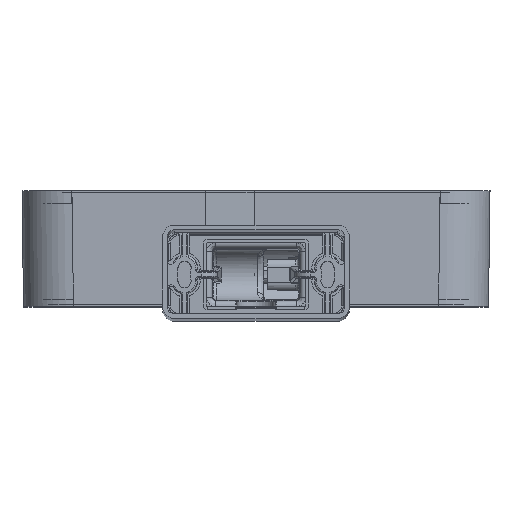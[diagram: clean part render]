
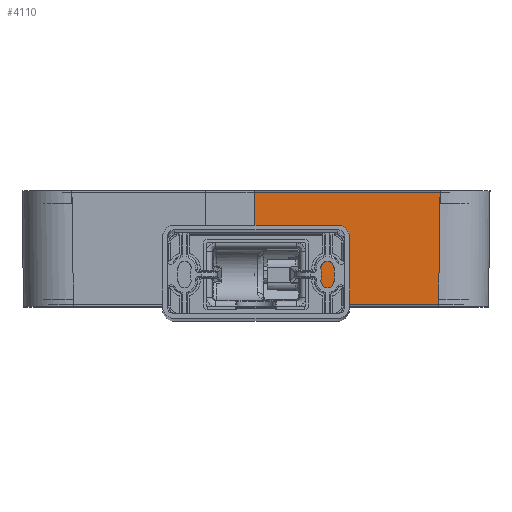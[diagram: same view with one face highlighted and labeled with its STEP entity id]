
A CAD part, top view. The second image highlights one B-rep face of the part: STEP entity #4110.
In plain terms, the highlighted planar face has unit normal (0, -0.013, 1).
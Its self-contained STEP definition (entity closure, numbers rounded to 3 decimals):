
#59=DIRECTION('',(1.,0.,0.));
#60=VECTOR('',#59,59.017);
#61=CARTESIAN_POINT('',(-0.5,0.,104.516));
#62=LINE('',#61,#60);
#77=CARTESIAN_POINT('',(58.517,0.,104.516));
#259=DIRECTION('',(1.,0.,0.));
#260=VECTOR('',#259,59.501);
#261=CARTESIAN_POINT('',(-0.5,37.,105.));
#262=LINE('',#261,#260);
#505=DIRECTION('',(-0.013,-1.,-0.013));
#506=VECTOR('',#505,37.006);
#507=CARTESIAN_POINT('',(59.001,37.,105.));
#508=LINE('',#507,#506);
#1727=DIRECTION('',(0.,-1.,-0.013));
#1728=VECTOR('',#1727,37.003);
#1729=CARTESIAN_POINT('',(-0.5,37.,105.));
#1730=LINE('',#1729,#1728);
#3287=CARTESIAN_POINT('',(-0.5,0.,104.516));
#3288=VERTEX_POINT('',#3287);
#3300=VERTEX_POINT('',#77);
#3301=CARTESIAN_POINT('',(59.001,37.,105.));
#3302=VERTEX_POINT('',#3301);
#3452=CARTESIAN_POINT('',(-0.5,37.,105.));
#3453=VERTEX_POINT('',#3452);
#4097=CARTESIAN_POINT('',(-76.12,37.,105.));
#4098=DIRECTION('',(0.,-0.013,1.));
#4099=DIRECTION('',(1.,0.,0.));
#4100=AXIS2_PLACEMENT_3D('',#4097,#4098,#4099);
#4101=PLANE('',#4100);
#4103=ORIENTED_EDGE('',*,*,#4102,.F.);
#4104=ORIENTED_EDGE('',*,*,#3974,.T.);
#4106=ORIENTED_EDGE('',*,*,#4105,.T.);
#4107=ORIENTED_EDGE('',*,*,#3912,.F.);
#4108=EDGE_LOOP('',(#4103,#4104,#4106,#4107));
#4109=FACE_OUTER_BOUND('',#4108,.F.);
#4110=ADVANCED_FACE('',(#4109),#4101,.T.);
#3912=EDGE_CURVE('',#3288,#3300,#62,.T.);
#3974=EDGE_CURVE('',#3453,#3302,#262,.T.);
#4102=EDGE_CURVE('',#3453,#3288,#1730,.T.);
#4105=EDGE_CURVE('',#3302,#3300,#508,.T.);
